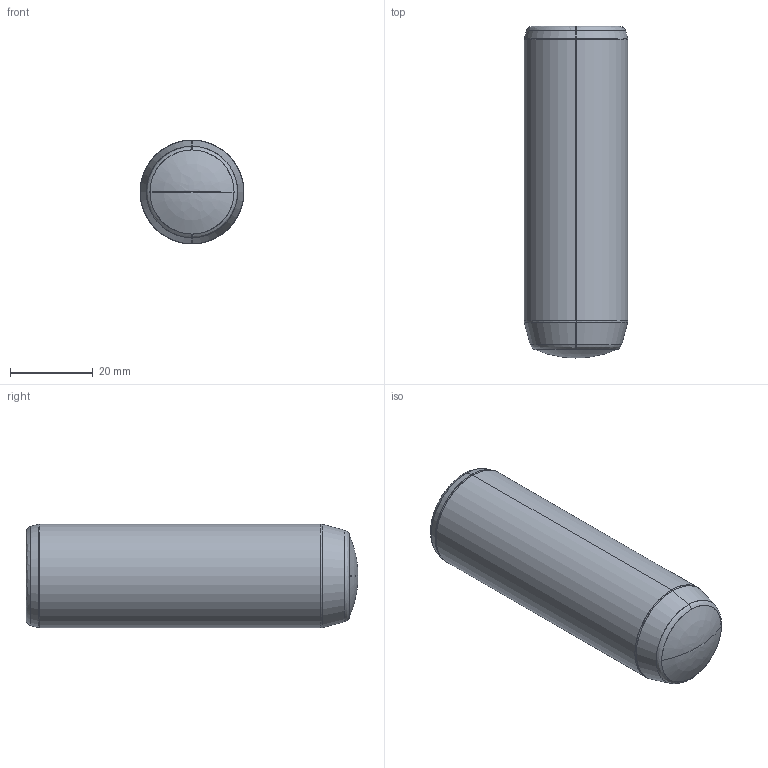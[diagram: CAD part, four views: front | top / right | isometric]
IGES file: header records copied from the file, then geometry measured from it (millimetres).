
Start section: SolidWorks IGES file using analytic representation for surfaces
Global section: file name: D:\Cleonir_arquivos\MT_15_07\Pinos Guia DIN 7979 ISO 8735 com rosca\PG725080.igs; native system: SolidWorks 2013; preprocessor: SolidWorks 2013; author: Cleonir; date: 130730.172449; units: millimetre
Bounding box: 25 x 80 x 25 mm (x, y, z)
Surface area: 8693.5 mm2 (no closed solid volume)
Topology: 0 solids, 0 shells, 297 faces, 2231 edges, 2228 vertices
Faces by surface type: bspline 275, revolution 22
